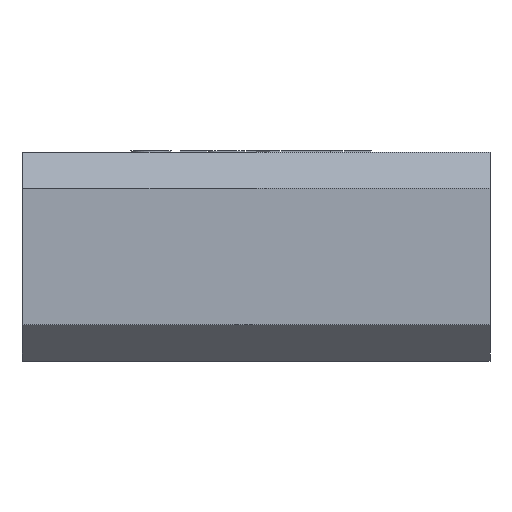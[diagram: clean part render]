
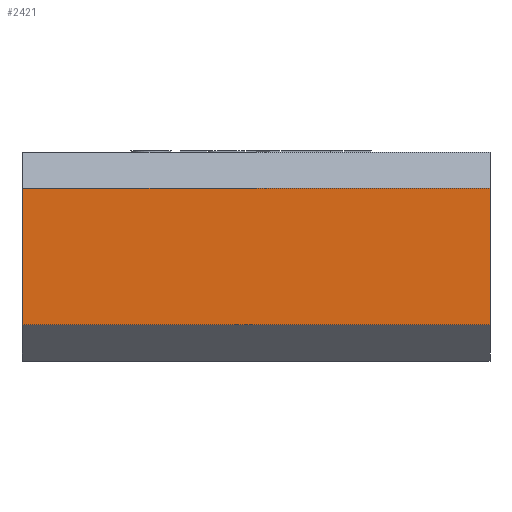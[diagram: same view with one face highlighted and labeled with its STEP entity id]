
A CAD part, front view. The second image highlights one B-rep face of the part: STEP entity #2421.
In plain terms, the highlighted planar face has unit normal (0, -1, 0).
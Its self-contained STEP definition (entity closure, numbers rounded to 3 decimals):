
#91 = EDGE_LOOP ( 'NONE', ( #5057, #3774, #6015, #1627 ) ) ;
#693 = CARTESIAN_POINT ( 'NONE',  ( -50., -23., 15. ) ) ;
#851 = VERTEX_POINT ( 'NONE', #6260 ) ;
#1497 = CARTESIAN_POINT ( 'NONE',  ( 53., -23., 23. ) ) ;
#1590 = CARTESIAN_POINT ( 'NONE',  ( -50., -23., 15. ) ) ;
#1627 = ORIENTED_EDGE ( 'NONE', *, *, #5483, .T. ) ;
#1727 = VECTOR ( 'NONE', #7076, 1000. ) ;
#2011 = VECTOR ( 'NONE', #2480, 1000. ) ;
#2421 = ADVANCED_FACE ( 'NONE', ( #3141 ), #5822, .F. ) ;
#2480 = DIRECTION ( 'NONE',  ( 1., 0., 0. ) ) ;
#2795 = DIRECTION ( 'NONE',  ( -1., 0., 0. ) ) ;
#2884 = VERTEX_POINT ( 'NONE', #693 ) ;
#3141 = FACE_OUTER_BOUND ( 'NONE', #91, .T. ) ;
#3158 = CARTESIAN_POINT ( 'NONE',  ( 53., -23., -15. ) ) ;
#3288 = DIRECTION ( 'NONE',  ( 0., 0., 1. ) ) ;
#3336 = CARTESIAN_POINT ( 'NONE',  ( -50., -23., 23. ) ) ;
#3575 = LINE ( 'NONE', #6547, #1727 ) ;
#3774 = ORIENTED_EDGE ( 'NONE', *, *, #7609, .T. ) ;
#3871 = DIRECTION ( 'NONE',  ( 0., 1., 0. ) ) ;
#4101 = EDGE_CURVE ( 'NONE', #851, #6976, #6613, .T. ) ;
#4630 = EDGE_CURVE ( 'NONE', #2884, #5751, #3575, .T. ) ;
#4943 = CARTESIAN_POINT ( 'NONE',  ( -50., -23., -15. ) ) ;
#5057 = ORIENTED_EDGE ( 'NONE', *, *, #4101, .F. ) ;
#5211 = VECTOR ( 'NONE', #2795, 1000. ) ;
#5483 = EDGE_CURVE ( 'NONE', #5751, #6976, #7066, .T. ) ;
#5751 = VERTEX_POINT ( 'NONE', #4943 ) ;
#5822 = PLANE ( 'NONE',  #6791 ) ;
#6015 = ORIENTED_EDGE ( 'NONE', *, *, #4630, .T. ) ;
#6260 = CARTESIAN_POINT ( 'NONE',  ( 53., -23., 15. ) ) ;
#6547 = CARTESIAN_POINT ( 'NONE',  ( -50., -23., 23. ) ) ;
#6613 = LINE ( 'NONE', #1497, #7009 ) ;
#6791 = AXIS2_PLACEMENT_3D ( 'NONE', #3336, #3871, #3288 ) ;
#6976 = VERTEX_POINT ( 'NONE', #7387 ) ;
#7009 = VECTOR ( 'NONE', #7163, 1000. ) ;
#7066 = LINE ( 'NONE', #3158, #2011 ) ;
#7076 = DIRECTION ( 'NONE',  ( 0., 0., -1. ) ) ;
#7163 = DIRECTION ( 'NONE',  ( 0., 0., -1. ) ) ;
#7387 = CARTESIAN_POINT ( 'NONE',  ( 53., -23., -15. ) ) ;
#7523 = LINE ( 'NONE', #1590, #5211 ) ;
#7609 = EDGE_CURVE ( 'NONE', #851, #2884, #7523, .T. ) ;
